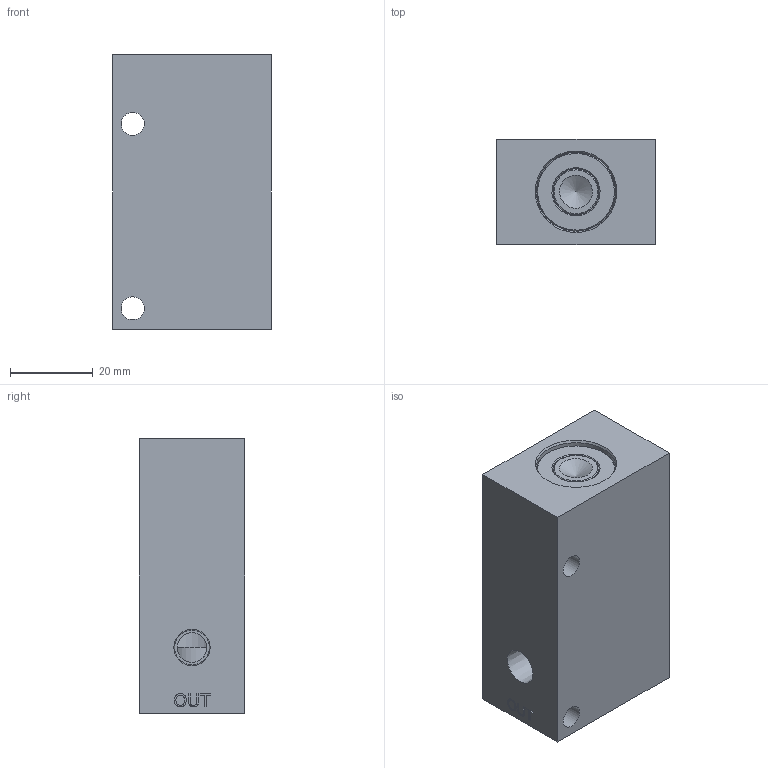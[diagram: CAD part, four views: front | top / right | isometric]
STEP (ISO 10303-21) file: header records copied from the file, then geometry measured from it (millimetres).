
FILE_DESCRIPTION(/* description */ (''),/* implementation_level */ '2;1');
FILE_NAME(/* name */ 'L:\ALADCO\Advertising\3D Content\Valves\Step Files - 2014-11-19 thru Present\41120X.stp',/* time_stamp */ '2014-11-19T16:01:21-06:00',/* author */ ('dmatz'),/* organization */ ('Aladdin Eng. & Manf. Inc.'),/* preprocessor_version */ 'ST-DEVELOPER v15.2',/* originating_system */ 'Autodesk Inventor 2014',/* authorisation */ '0 in^3');
FILE_SCHEMA (('AUTOMOTIVE_DESIGN { 1 0 10303 214 3 1 1 }'));
Length unit declared in the file: inch
Products named in the file (5): 551200NPTF; 311020; 551203; 551202; 511201
Bounding box: 38.1 x 25.4 x 66.24 mm (x, y, z)
Volume: 52560.8 mm3; surface area: 19328.1 mm2
Topology: 4 solids, 4 shells, 184 faces, 423 edges, 277 vertices
Faces by surface type: plane 99, cylinder 28, bspline 26, torus 16, cone 15
Full cylindrical faces by diameter (mm): 1.499 x1, 5.556 x2, 6.629 x1, 7.137 x1, 7.144 x3, 7.938 x2, 11.049 x2, 11.1 x1, 11.176 x1, 11.735 x1, 12.294 x1, 12.7 x1, 13.792 x1, 15.875 x1, 16.51 x2, 17.462 x1, 18.999 x4, 19.05 x2
Entity records: 5345 total; most frequent: CARTESIAN_POINT 1366, DIRECTION 706, ORIENTED_EDGE 682, EDGE_CURVE 341, EDGE_LOOP 290, VERTEX_POINT 257, AXIS2_PLACEMENT_3D 253, LINE 200
